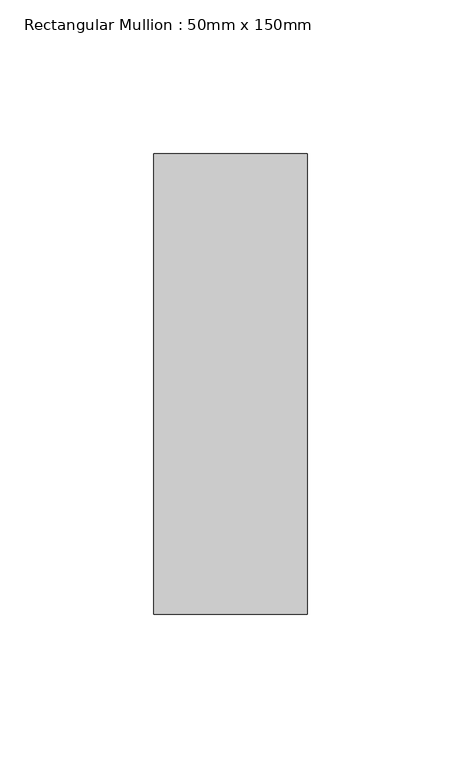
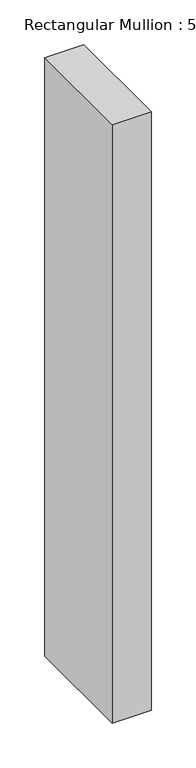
"""IFC4 building model written with IfcOpenShell, lengths in millimetres: member geometry, Rectangular Mullion : 50mm x 150mm."""

from ifc_helpers import new_model, si_unit, frame, origin, place, context, project, spatial, polyline, outline, extrude, source, transform, mapped, element, save


def rectangular_mullion_50mm_x_150mm_13593f2b(model_context):
    return source(origin(), model_context, "Body", "SweptSolid", [
        extrude(outline(polyline([(0.0, 75.0), (0.0, -75.0), (-50.0, -75.0), (-50.0, 75.0), (0.0, 75.0)])), frame((0.0, 0.0, -813.7581581), z_axis=(0.0, 0.0, 1.0), x_axis=(1.0, 0.0, 0.0)), (0.0, 0.0, 1.0), 813.7581581),
    ])


if __name__ == "__main__":
    model = new_model("IFC4")
    model_context = context("Model", 3, world=origin())
    ifc_project = project(units=[si_unit("LENGTHUNIT", "METRE", prefix="MILLI")], contexts=[model_context])
    site = spatial("IfcSite", under=ifc_project)
    building = spatial("IfcBuilding", under=site)
    placement = place(None, origin())
    rectangular_mullion_50mm_x_150mm_shape = rectangular_mullion_50mm_x_150mm_13593f2b(model_context)
    element("IfcMember", 1, ObjectType="Rectangular Mullion : 50mm x 150mm", at=placement, inside=building, context=model_context, shape_type="MappedRepresentation", body=[
        mapped(rectangular_mullion_50mm_x_150mm_shape, transform((0.0, 0.0, 0.0), x_axis=(1.0, 0.0, 0.0), y_axis=(0.0, 1.0, 0.0), z_axis=(0.0, 0.0, 1.0))),
    ])
    save(model, "model.ifc")
